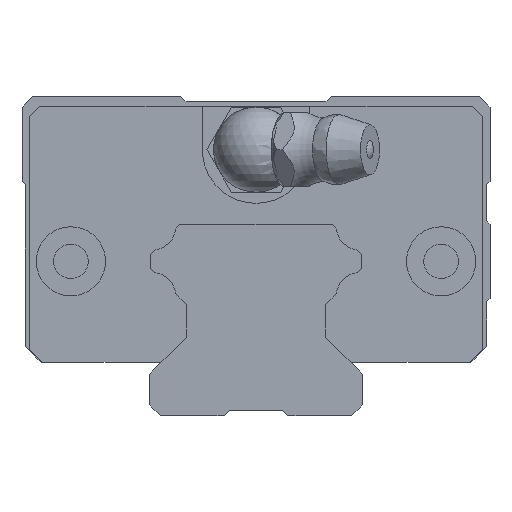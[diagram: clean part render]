
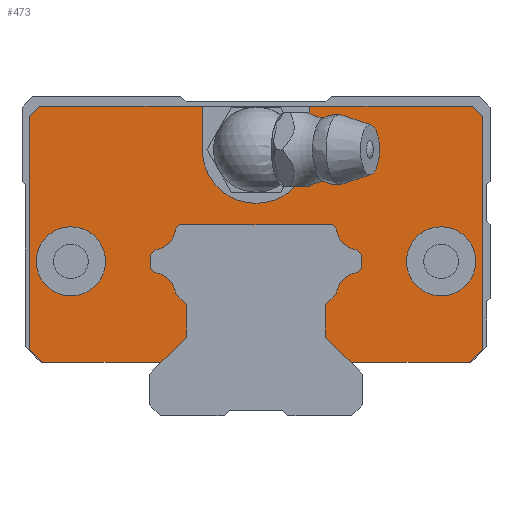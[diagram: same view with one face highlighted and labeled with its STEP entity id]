
A CAD part, front view. The second image highlights one B-rep face of the part: STEP entity #473.
In plain terms, the highlighted planar face has unit normal (0, -1, 0).
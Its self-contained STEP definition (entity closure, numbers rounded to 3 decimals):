
#204=FACE_BOUND('',#969,.T.);
#205=FACE_BOUND('',#970,.T.);
#293=CIRCLE('',#3364,2.2);
#295=CIRCLE('',#3370,2.2);
#297=CIRCLE('',#3376,2.2);
#299=CIRCLE('',#3382,2.2);
#309=CIRCLE('',#3424,3.25);
#310=CIRCLE('',#3425,3.25);
#311=CIRCLE('',#3426,5.05);
#473=ADVANCED_FACE('',(#204,#205,#770),#618,.F.);
#618=PLANE('',#3427);
#770=FACE_OUTER_BOUND('',#971,.T.);
#969=EDGE_LOOP('',(#1708));
#970=EDGE_LOOP('',(#1709));
#971=EDGE_LOOP('',(#1710,#1711,#1712,#1713,#1714,#1715,#1716,#1717,#1718,
#1719,#1720,#1721,#1722,#1723,#1724,#1725,#1726,#1727,#1728,#1729,#1730,
#1731,#1732,#1733,#1734,#1735,#1736,#1737,#1738,#1739,#1740,#1741));
#1708=ORIENTED_EDGE('',*,*,#2536,.F.);
#1709=ORIENTED_EDGE('',*,*,#2537,.F.);
#1710=ORIENTED_EDGE('',*,*,#2538,.F.);
#1711=ORIENTED_EDGE('',*,*,#2539,.T.);
#1712=ORIENTED_EDGE('',*,*,#2525,.T.);
#1713=ORIENTED_EDGE('',*,*,#2520,.F.);
#1714=ORIENTED_EDGE('',*,*,#2535,.T.);
#1715=ORIENTED_EDGE('',*,*,#2533,.T.);
#1716=ORIENTED_EDGE('',*,*,#2466,.T.);
#1717=ORIENTED_EDGE('',*,*,#2458,.T.);
#1718=ORIENTED_EDGE('',*,*,#2455,.F.);
#1719=ORIENTED_EDGE('',*,*,#2452,.F.);
#1720=ORIENTED_EDGE('',*,*,#2449,.T.);
#1721=ORIENTED_EDGE('',*,*,#2446,.F.);
#1722=ORIENTED_EDGE('',*,*,#2443,.F.);
#1723=ORIENTED_EDGE('',*,*,#2440,.T.);
#1724=ORIENTED_EDGE('',*,*,#2437,.T.);
#1725=ORIENTED_EDGE('',*,*,#2434,.T.);
#1726=ORIENTED_EDGE('',*,*,#2431,.T.);
#1727=ORIENTED_EDGE('',*,*,#2428,.F.);
#1728=ORIENTED_EDGE('',*,*,#2425,.T.);
#1729=ORIENTED_EDGE('',*,*,#2422,.F.);
#1730=ORIENTED_EDGE('',*,*,#2419,.T.);
#1731=ORIENTED_EDGE('',*,*,#2416,.T.);
#1732=ORIENTED_EDGE('',*,*,#2413,.T.);
#1733=ORIENTED_EDGE('',*,*,#2410,.T.);
#1734=ORIENTED_EDGE('',*,*,#2407,.T.);
#1735=ORIENTED_EDGE('',*,*,#2404,.F.);
#1736=ORIENTED_EDGE('',*,*,#2399,.T.);
#1737=ORIENTED_EDGE('',*,*,#2532,.T.);
#1738=ORIENTED_EDGE('',*,*,#2530,.F.);
#1739=ORIENTED_EDGE('',*,*,#2528,.F.);
#1740=ORIENTED_EDGE('',*,*,#2523,.T.);
#1741=ORIENTED_EDGE('',*,*,#2540,.F.);
#2029=VERTEX_POINT('',#4999);
#2030=VERTEX_POINT('',#5001);
#2034=VERTEX_POINT('',#5011);
#2036=VERTEX_POINT('',#5017);
#2038=VERTEX_POINT('',#5023);
#2040=VERTEX_POINT('',#5029);
#2042=VERTEX_POINT('',#5035);
#2044=VERTEX_POINT('',#5041);
#2046=VERTEX_POINT('',#5047);
#2048=VERTEX_POINT('',#5053);
#2050=VERTEX_POINT('',#5059);
#2052=VERTEX_POINT('',#5065);
#2054=VERTEX_POINT('',#5071);
#2056=VERTEX_POINT('',#5077);
#2058=VERTEX_POINT('',#5083);
#2060=VERTEX_POINT('',#5089);
#2062=VERTEX_POINT('',#5095);
#2064=VERTEX_POINT('',#5101);
#2066=VERTEX_POINT('',#5107);
#2068=VERTEX_POINT('',#5113);
#2070=VERTEX_POINT('',#5119);
#2077=VERTEX_POINT('',#5135);
#2116=VERTEX_POINT('',#5248);
#2117=VERTEX_POINT('',#5250);
#2118=VERTEX_POINT('',#5254);
#2120=VERTEX_POINT('',#5257);
#2121=VERTEX_POINT('',#5260);
#2123=VERTEX_POINT('',#5266);
#2124=VERTEX_POINT('',#5270);
#2125=VERTEX_POINT('',#5276);
#2126=VERTEX_POINT('',#5282);
#2127=VERTEX_POINT('',#5284);
#2128=VERTEX_POINT('',#5286);
#2129=VERTEX_POINT('',#5287);
#2399=EDGE_CURVE('',#2030,#2029,#2743,.T.);
#2404=EDGE_CURVE('',#2030,#2034,#2748,.T.);
#2407=EDGE_CURVE('',#2036,#2034,#2751,.T.);
#2410=EDGE_CURVE('',#2038,#2036,#2754,.T.);
#2413=EDGE_CURVE('',#2040,#2038,#293,.T.);
#2416=EDGE_CURVE('',#2042,#2040,#2758,.T.);
#2419=EDGE_CURVE('',#2044,#2042,#2761,.T.);
#2422=EDGE_CURVE('',#2044,#2046,#2764,.T.);
#2425=EDGE_CURVE('',#2048,#2046,#295,.T.);
#2428=EDGE_CURVE('',#2048,#2050,#2768,.T.);
#2431=EDGE_CURVE('',#2052,#2050,#2771,.T.);
#2434=EDGE_CURVE('',#2054,#2052,#2774,.T.);
#2437=EDGE_CURVE('',#2056,#2054,#297,.T.);
#2440=EDGE_CURVE('',#2058,#2056,#2778,.T.);
#2443=EDGE_CURVE('',#2058,#2060,#2781,.T.);
#2446=EDGE_CURVE('',#2060,#2062,#2784,.T.);
#2449=EDGE_CURVE('',#2064,#2062,#299,.T.);
#2452=EDGE_CURVE('',#2064,#2066,#2788,.T.);
#2455=EDGE_CURVE('',#2066,#2068,#2791,.T.);
#2458=EDGE_CURVE('',#2070,#2068,#2794,.T.);
#2466=EDGE_CURVE('',#2077,#2070,#2802,.T.);
#2520=EDGE_CURVE('',#2116,#2117,#2848,.T.);
#2523=EDGE_CURVE('',#2120,#2118,#2851,.T.);
#2525=EDGE_CURVE('',#2121,#2117,#2853,.T.);
#2528=EDGE_CURVE('',#2120,#2123,#2856,.T.);
#2530=EDGE_CURVE('',#2123,#2124,#2858,.T.);
#2532=EDGE_CURVE('',#2029,#2124,#2860,.T.);
#2533=EDGE_CURVE('',#2125,#2077,#2861,.T.);
#2535=EDGE_CURVE('',#2116,#2125,#2863,.T.);
#2536=EDGE_CURVE('',#2126,#2126,#309,.T.);
#2537=EDGE_CURVE('',#2127,#2127,#310,.T.);
#2538=EDGE_CURVE('',#2128,#2129,#311,.T.);
#2539=EDGE_CURVE('',#2128,#2121,#2864,.T.);
#2540=EDGE_CURVE('',#2129,#2118,#2865,.T.);
#2743=LINE('',#5000,#3051);
#2748=LINE('',#5010,#3056);
#2751=LINE('',#5016,#3059);
#2754=LINE('',#5022,#3062);
#2758=LINE('',#5034,#3066);
#2761=LINE('',#5040,#3069);
#2764=LINE('',#5046,#3072);
#2768=LINE('',#5058,#3076);
#2771=LINE('',#5064,#3079);
#2774=LINE('',#5070,#3082);
#2778=LINE('',#5082,#3086);
#2781=LINE('',#5088,#3089);
#2784=LINE('',#5094,#3092);
#2788=LINE('',#5106,#3096);
#2791=LINE('',#5112,#3099);
#2794=LINE('',#5118,#3102);
#2802=LINE('',#5134,#3110);
#2848=LINE('',#5249,#3156);
#2851=LINE('',#5256,#3159);
#2853=LINE('',#5259,#3161);
#2856=LINE('',#5265,#3164);
#2858=LINE('',#5269,#3166);
#2860=LINE('',#5273,#3168);
#2861=LINE('',#5275,#3169);
#2863=LINE('',#5279,#3171);
#2864=LINE('',#5288,#3172);
#2865=LINE('',#5289,#3173);
#3051=VECTOR('',#3953,1.);
#3056=VECTOR('',#3960,1.);
#3059=VECTOR('',#3965,1.);
#3062=VECTOR('',#3970,1.);
#3066=VECTOR('',#3982,1.);
#3069=VECTOR('',#3987,1.);
#3072=VECTOR('',#3992,1.);
#3076=VECTOR('',#4004,1.);
#3079=VECTOR('',#4009,1.);
#3082=VECTOR('',#4014,1.);
#3086=VECTOR('',#4026,1.);
#3089=VECTOR('',#4031,1.);
#3092=VECTOR('',#4036,1.);
#3096=VECTOR('',#4048,1.);
#3099=VECTOR('',#4053,1.);
#3102=VECTOR('',#4058,1.);
#3110=VECTOR('',#4068,1.);
#3156=VECTOR('',#4172,1.);
#3159=VECTOR('',#4177,1.);
#3161=VECTOR('',#4179,1.);
#3164=VECTOR('',#4184,1.);
#3166=VECTOR('',#4188,1.);
#3168=VECTOR('',#4192,1.);
#3169=VECTOR('',#4195,1.);
#3171=VECTOR('',#4199,1.);
#3172=VECTOR('',#4208,1.);
#3173=VECTOR('',#4209,1.);
#3364=AXIS2_PLACEMENT_3D('',#5028,#3975,#3976);
#3370=AXIS2_PLACEMENT_3D('',#5052,#3997,#3998);
#3376=AXIS2_PLACEMENT_3D('',#5076,#4019,#4020);
#3382=AXIS2_PLACEMENT_3D('',#5100,#4041,#4042);
#3424=AXIS2_PLACEMENT_3D('',#5281,#4202,#4203);
#3425=AXIS2_PLACEMENT_3D('',#5283,#4204,#4205);
#3426=AXIS2_PLACEMENT_3D('',#5285,#4206,#4207);
#3427=AXIS2_PLACEMENT_3D('',#5290,#4210,#4211);
#3953=DIRECTION('',(1.,0.,0.));
#3960=DIRECTION('',(-0.707,0.,0.707));
#3965=DIRECTION('',(0.,0.,-1.));
#3970=DIRECTION('',(-0.707,0.,-0.707));
#3975=DIRECTION('',(0.,-1.,0.));
#3976=DIRECTION('',(1.,0.,0.));
#3982=DIRECTION('',(-0.707,0.,-0.707));
#3987=DIRECTION('',(0.,0.,-1.));
#3992=DIRECTION('',(-0.707,0.,0.707));
#3997=DIRECTION('',(0.,-1.,0.));
#3998=DIRECTION('',(1.,0.,0.));
#4004=DIRECTION('',(-0.707,0.,0.707));
#4009=DIRECTION('',(1.,0.,0.));
#4014=DIRECTION('',(0.707,0.,0.707));
#4019=DIRECTION('',(0.,-1.,0.));
#4020=DIRECTION('',(1.,0.,0.));
#4026=DIRECTION('',(0.707,0.,0.707));
#4031=DIRECTION('',(0.,0.,-1.));
#4036=DIRECTION('',(0.707,0.,-0.707));
#4041=DIRECTION('',(0.,-1.,0.));
#4042=DIRECTION('',(1.,0.,0.));
#4048=DIRECTION('',(0.707,0.,-0.707));
#4053=DIRECTION('',(0.,0.,-1.));
#4058=DIRECTION('',(0.707,0.,0.707));
#4068=DIRECTION('',(1.,0.,0.));
#4172=DIRECTION('',(0.707,0.,0.707));
#4177=DIRECTION('',(-1.,0.,0.));
#4179=DIRECTION('',(-1.,0.,0.));
#4184=DIRECTION('',(0.707,0.,-0.707));
#4188=DIRECTION('',(0.,0.,-1.));
#4192=DIRECTION('',(0.707,0.,0.707));
#4195=DIRECTION('',(0.707,0.,-0.707));
#4199=DIRECTION('',(0.,0.,-1.));
#4202=DIRECTION('',(0.,-1.,0.));
#4203=DIRECTION('',(0.,0.,-1.));
#4204=DIRECTION('',(0.,-1.,0.));
#4205=DIRECTION('',(0.,0.,-1.));
#4206=DIRECTION('',(0.,-1.,0.));
#4207=DIRECTION('',(1.,0.,0.));
#4208=DIRECTION('',(0.,0.,1.));
#4209=DIRECTION('',(0.,0.,1.));
#4210=DIRECTION('',(0.,1.,0.));
#4211=DIRECTION('',(0.,0.,-1.));
#4999=CARTESIAN_POINT('',(20.059,-44.9,5.));
#5000=CARTESIAN_POINT('',(8.901,-44.9,5.));
#5001=CARTESIAN_POINT('',(8.901,-44.9,5.));
#5010=CARTESIAN_POINT('',(8.901,-44.9,5.));
#5011=CARTESIAN_POINT('',(6.53,-44.9,7.371));
#5016=CARTESIAN_POINT('',(6.53,-44.9,10.429));
#5017=CARTESIAN_POINT('',(6.53,-44.9,10.429));
#5022=CARTESIAN_POINT('',(7.564,-44.9,11.463));
#5023=CARTESIAN_POINT('',(7.564,-44.9,11.463));
#5028=CARTESIAN_POINT('',(9.753,-44.9,11.247));
#5029=CARTESIAN_POINT('',(9.537,-44.9,13.436));
#5034=CARTESIAN_POINT('',(9.93,-44.9,13.829));
#5035=CARTESIAN_POINT('',(9.93,-44.9,13.829));
#5040=CARTESIAN_POINT('',(9.93,-44.9,15.171));
#5041=CARTESIAN_POINT('',(9.93,-44.9,15.171));
#5046=CARTESIAN_POINT('',(9.93,-44.9,15.171));
#5047=CARTESIAN_POINT('',(9.537,-44.9,15.564));
#5052=CARTESIAN_POINT('',(9.753,-44.9,17.753));
#5053=CARTESIAN_POINT('',(7.564,-44.9,17.537));
#5058=CARTESIAN_POINT('',(7.564,-44.9,17.537));
#5059=CARTESIAN_POINT('',(7.171,-44.9,17.93));
#5064=CARTESIAN_POINT('',(-7.171,-44.9,17.93));
#5065=CARTESIAN_POINT('',(-7.171,-44.9,17.93));
#5070=CARTESIAN_POINT('',(-7.564,-44.9,17.537));
#5071=CARTESIAN_POINT('',(-7.564,-44.9,17.537));
#5076=CARTESIAN_POINT('',(-9.753,-44.9,17.753));
#5077=CARTESIAN_POINT('',(-9.537,-44.9,15.564));
#5082=CARTESIAN_POINT('',(-9.93,-44.9,15.171));
#5083=CARTESIAN_POINT('',(-9.93,-44.9,15.171));
#5088=CARTESIAN_POINT('',(-9.93,-44.9,15.171));
#5089=CARTESIAN_POINT('',(-9.93,-44.9,13.829));
#5094=CARTESIAN_POINT('',(-9.93,-44.9,13.829));
#5095=CARTESIAN_POINT('',(-9.537,-44.9,13.436));
#5100=CARTESIAN_POINT('',(-9.753,-44.9,11.247));
#5101=CARTESIAN_POINT('',(-7.564,-44.9,11.463));
#5106=CARTESIAN_POINT('',(-7.564,-44.9,11.463));
#5107=CARTESIAN_POINT('',(-6.53,-44.9,10.429));
#5112=CARTESIAN_POINT('',(-6.53,-44.9,10.429));
#5113=CARTESIAN_POINT('',(-6.53,-44.9,7.371));
#5118=CARTESIAN_POINT('',(-8.901,-44.9,5.));
#5119=CARTESIAN_POINT('',(-8.901,-44.9,5.));
#5134=CARTESIAN_POINT('',(-20.059,-44.9,5.));
#5135=CARTESIAN_POINT('',(-20.059,-44.9,5.));
#5248=CARTESIAN_POINT('',(-21.3,-44.9,28.159));
#5249=CARTESIAN_POINT('',(-21.3,-44.9,28.159));
#5250=CARTESIAN_POINT('',(-20.359,-44.9,29.1));
#5254=CARTESIAN_POINT('',(5.05,-44.9,29.1));
#5256=CARTESIAN_POINT('',(20.359,-44.9,29.1));
#5257=CARTESIAN_POINT('',(20.359,-44.9,29.1));
#5259=CARTESIAN_POINT('',(20.359,-44.9,29.1));
#5260=CARTESIAN_POINT('',(-5.05,-44.9,29.1));
#5265=CARTESIAN_POINT('',(20.359,-44.9,29.1));
#5266=CARTESIAN_POINT('',(21.3,-44.9,28.159));
#5269=CARTESIAN_POINT('',(21.3,-44.9,28.159));
#5270=CARTESIAN_POINT('',(21.3,-44.9,6.241));
#5273=CARTESIAN_POINT('',(20.059,-44.9,5.));
#5275=CARTESIAN_POINT('',(-21.3,-44.9,6.241));
#5276=CARTESIAN_POINT('',(-21.3,-44.9,6.241));
#5279=CARTESIAN_POINT('',(-21.3,-44.9,28.159));
#5281=CARTESIAN_POINT('',(17.4,-44.9,14.5));
#5282=CARTESIAN_POINT('',(17.4,-44.9,11.25));
#5283=CARTESIAN_POINT('',(-17.4,-44.9,14.5));
#5284=CARTESIAN_POINT('',(-17.4,-44.9,11.25));
#5285=CARTESIAN_POINT('',(0.,-44.9,25.));
#5286=CARTESIAN_POINT('',(-5.05,-44.9,25.));
#5287=CARTESIAN_POINT('',(5.05,-44.9,25.));
#5288=CARTESIAN_POINT('',(-5.05,-44.9,25.));
#5289=CARTESIAN_POINT('',(5.05,-44.9,25.));
#5290=CARTESIAN_POINT('',(9.753,-44.9,11.247));
